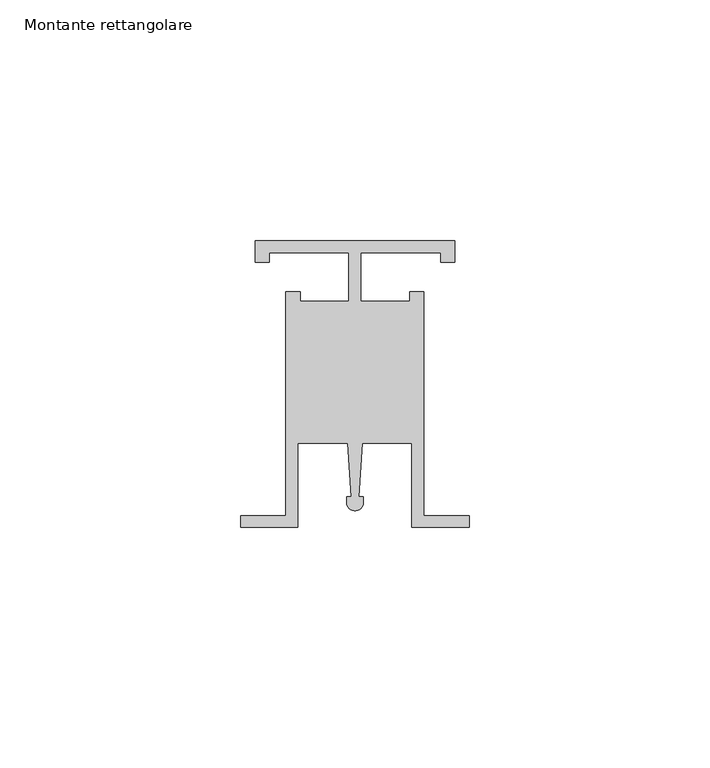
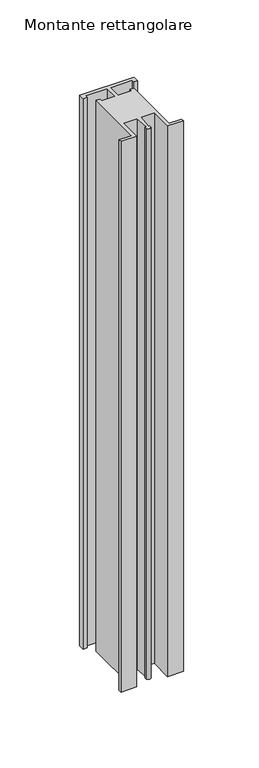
"""IFC4 building model written with IfcOpenShell, lengths in millimetres: member geometry, Montante rettangolare : Verde Profilo's Uprights."""

from ifc_helpers import new_model, si_unit, point, frame, frame_2d, origin, place, context, project, spatial, polyline, circle_curve, trimmed, segment, composite_curve, outline, extrude, source, transform, mapped, element, save


def montante_rettangolare_dbf9407e(model_context):
    return source(origin(), model_context, "Body", "SweptSolid", [
        extrude(outline(composite_curve([segment(polyline([(-44.5191881, 0.0), (-3.0, 0.0), (-3.0, -4.4643434), (-5.9763281, -4.4643434), (-5.9763281, -2.4801246), (-22.5192241, -2.4801246), (-22.5192241, -12.5992217), (-12.4008018, -12.5992217), (-12.4008018, -10.6150029), (-9.4244736, -10.6150029), (-9.4244736, -57.1992491), (0.0, -57.1992491), (0.0, -59.5229914), (-11.9045983, -59.5229914), (-11.9045983, -42.1200913), (-22.2878429, -42.1200913), (-23.0155567, -53.2310496), (-22.0219337, -53.2310496), (-22.0219337, -54.4070013)]), True, "CONTINUOUS"), segment(trimmed(circle_curve(frame_2d((-23.7595941, -54.4070013)), 1.7376604), [point((-22.0219337, -54.4070013))], [point((-25.4972545, -54.4070013))], False, "CARTESIAN"), True, "CONTINUOUS"), segment(polyline([(-25.4972545, -54.4070013), (-25.4972545, -53.2310496), (-24.5036314, -53.2310496), (-25.2313452, -42.1200913), (-35.6145898, -42.1200913), (-35.6145898, -59.5229914), (-47.5191881, -59.5229914), (-47.5191881, -57.1992491), (-38.0947145, -57.1992491), (-38.0947145, -10.6150029), (-35.1183863, -10.6150029), (-35.1183863, -12.5992217), (-24.999964, -12.5992217), (-24.999964, -2.4801246), (-41.54286, -2.4801246), (-41.54286, -4.4643434), (-44.5191881, -4.4643434), (-44.5191881, 0.0)]), True, "CONTINUOUS")], self_intersect=False)), frame((0.0, 0.0, -442.8571429), z_axis=(0.0, 0.0, 1.0), x_axis=(1.0, 0.0, 0.0)), (0.0, 0.0, 1.0), 442.8571429),
    ])


if __name__ == "__main__":
    model = new_model("IFC4")
    model_context = context("Model", 3, world=origin())
    ifc_project = project(units=[si_unit("LENGTHUNIT", "METRE", prefix="MILLI")], contexts=[model_context])
    site = spatial("IfcSite", under=ifc_project)
    building = spatial("IfcBuilding", under=site)
    placement = place(None, origin())
    montante_rettangolare_shape = montante_rettangolare_dbf9407e(model_context)
    element("IfcMember", 1, ObjectType="Montante rettangolare : Verde Profilo's Uprights", at=placement, inside=building, context=model_context, shape_type="MappedRepresentation", body=[
        mapped(montante_rettangolare_shape, transform((0.0, 0.0, 0.0), x_axis=(1.0, 0.0, 0.0), y_axis=(0.0, 1.0, 0.0), z_axis=(0.0, 0.0, 1.0))),
    ])
    save(model, "model.ifc")
